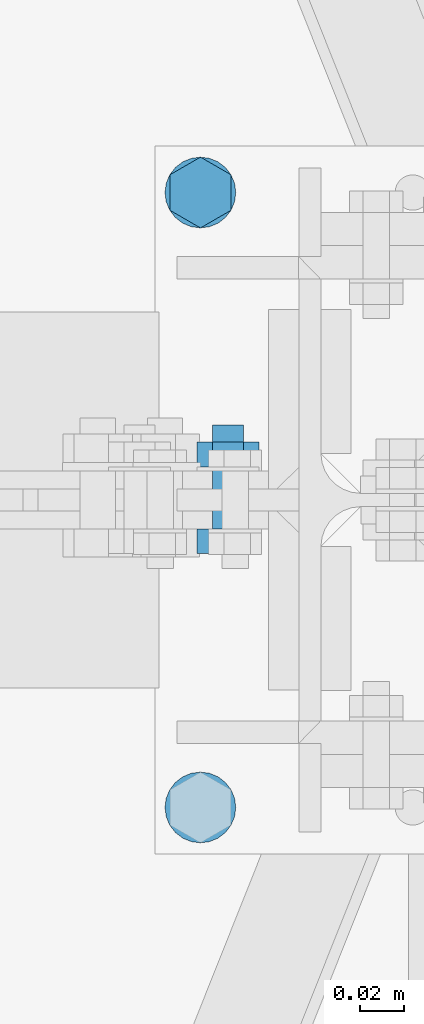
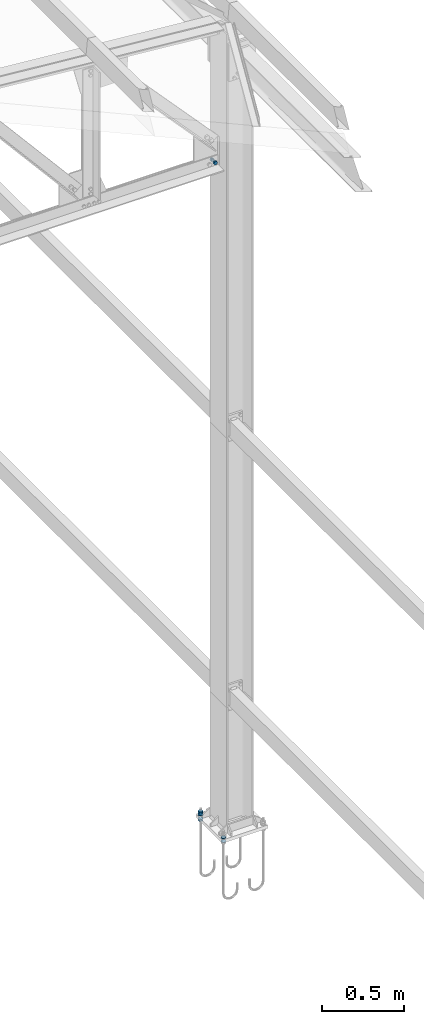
# One storey, part 178 of 251: 10 mechanical fasteners.
"""IFC4 building model written with IfcOpenShell, lengths in metres."""

from ifc_helpers import new_model, si_unit, frame, origin_with_axes, place, context, project, spatial, polyline, outline, extrude, type_object, element, save


model = new_model("IFC4")

# Units and contexts
model_context = context("Model", 3, precision=1e-05, world=origin_with_axes())
ifc_project = project(units=[si_unit("LENGTHUNIT", "METRE"), si_unit("AREAUNIT", "SQUARE_METRE"), si_unit("VOLUMEUNIT", "CUBIC_METRE"), si_unit("MASSUNIT", "GRAM", prefix="KILO"), si_unit("TIMEUNIT", "SECOND"), si_unit("PLANEANGLEUNIT", "RADIAN"), si_unit("SOLIDANGLEUNIT", "STERADIAN"), si_unit("THERMODYNAMICTEMPERATUREUNIT", "DEGREE_CELSIUS")], contexts=[model_context])

# Site, building, storey
placement_1 = place(None, origin_with_axes())
site = spatial("IfcSite", under=ifc_project, at=placement_1, Name="Italia", CompositionType="ELEMENT")
building = spatial("IfcBuilding", under=site, at=placement_1, Name="Deposito", CompositionType="ELEMENT")
storey = spatial("IfcBuildingStorey", under=building, at=placement_1, Name="Storey 0", CompositionType="ELEMENT", Elevation=0.0)

# Mechanical fasteners
mechanical_fastener_type_1 = type_object("IfcMechanicalFastenerType", Name="Collegamenti 0014_-001 0016_-054 0018_-056 0032_-002 0033_-058 0047_-003 0048_-060 0062_-004 0063_-005 0079_-008", PredefinedType="BOLT")
placement_2 = place(placement_1, origin_with_axes())
mechanical_fastener_1_placement = place(placement_2, origin_with_axes())
element("IfcMechanicalFastener", 1, at=mechanical_fastener_1_placement, inside=storey, type_object=mechanical_fastener_type_1, Name="Collegamenti 0014_-001 0016_-054 0018_-056 0032_-002 0033_-058 0047_-003 0048_-060 0062_-004 0063_-005 0079_-008", NominalDiameter=0.032, context=model_context, shape_type="SweptSolid", body=[
    extrude(outline(polyline([(0.0, 0.0), (-0.000544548, -0.00414085), (-0.00214386, -0.00799942), (-0.00468636, -0.0113144), (-0.00799942, -0.0138569), (-0.0118589, -0.0154552), (-0.0159998, -0.0160007), (-0.0201406, -0.0154552), (-0.0240002, -0.0138569), (-0.0273132, -0.0113144), (-0.0298557, -0.00799942), (-0.031455, -0.00414085), (-0.0319996, 0.0), (-0.031455, 0.00414085), (-0.0298557, 0.00799942), (-0.0273132, 0.0113144), (-0.0240002, 0.0138569), (-0.0201406, 0.0154552), (-0.0159998, 0.0160007), (-0.0118589, 0.0154552), (-0.00799942, 0.0138569), (-0.00468636, 0.0113144), (-0.00214386, 0.00799942), (-0.000544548, 0.00414085), (0.0, 0.0)])), frame((19.8605, 14.877, 0.075), z_axis=(0.0, 0.0, 1.0), x_axis=(0.0, 1.0, 0.0)), (0.0, 0.0, 1.0), 0.00399999),
])
mechanical_fastener_type_2 = type_object("IfcMechanicalFastenerType", Name="Collegamenti 0014_-001 0016_-054 0018_-056 0032_-002 0033_-058 0047_-003 0048_-060 0062_-004 0063_-005 0079_-008", PredefinedType="BOLT")
mechanical_fastener_2_placement = place(placement_2, origin_with_axes())
element("IfcMechanicalFastener", 2, at=mechanical_fastener_2_placement, inside=storey, type_object=mechanical_fastener_type_2, Name="Collegamenti 0014_-001 0016_-054 0018_-056 0032_-002 0033_-058 0047_-003 0048_-060 0062_-004 0063_-005 0079_-008", NominalDiameter=0.032, context=model_context, shape_type="SweptSolid", body=[
    extrude(outline(polyline([(0.0, 0.0), (-0.000544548, -0.00414085), (-0.00214386, -0.00799942), (-0.00468636, -0.0113144), (-0.00799942, -0.0138569), (-0.0118589, -0.0154552), (-0.0159998, -0.0160007), (-0.0201406, -0.0154552), (-0.0240002, -0.0138569), (-0.0273132, -0.0113144), (-0.0298557, -0.00799942), (-0.031455, -0.00414085), (-0.0319996, 0.0), (-0.031455, 0.00414085), (-0.0298557, 0.00799942), (-0.0273132, 0.0113144), (-0.0240002, 0.0138569), (-0.0201406, 0.0154552), (-0.0159998, 0.0160007), (-0.0118589, 0.0154552), (-0.00799942, 0.0138569), (-0.00468636, 0.0113144), (-0.00214386, 0.00799942), (-0.000544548, 0.00414085), (0.0, 0.0)])), frame((19.8605, 14.877, 0.046), z_axis=(0.0, 0.0, 1.0), x_axis=(0.0, 1.0, 0.0)), (0.0, 0.0, 1.0), 0.004),
])
mechanical_fastener_type_3 = type_object("IfcMechanicalFastenerType", Name="Collegamenti 0014_-001 0016_-054 0018_-056 0032_-002 0033_-058 0047_-003 0048_-060 0062_-004 0063_-005 0079_-008", PredefinedType="BOLT")
mechanical_fastener_3_placement = place(placement_2, origin_with_axes())
element("IfcMechanicalFastener", 3, at=mechanical_fastener_3_placement, inside=storey, type_object=mechanical_fastener_type_3, Name="Collegamenti 0014_-001 0016_-054 0018_-056 0032_-002 0033_-058 0047_-003 0048_-060 0062_-004 0063_-005 0079_-008", NominalDiameter=0.0160001, context=model_context, shape_type="SweptSolid", body=[
    extrude(outline(polyline([(0.0, 0.0), (-0.0160007, 0.0), (-0.0240002, 0.0138569), (-0.0160007, 0.0277138), (0.0, 0.0277138), (0.00799942, 0.0138569), (0.0, 0.0)])), frame((19.8744, 15.147, 0.079), z_axis=(0.0, 0.0, 1.0), x_axis=(0.0, 1.0, 0.0)), (0.0, 0.0, 1.0), 0.0128),
])
mechanical_fastener_type_4 = type_object("IfcMechanicalFastenerType", Name="Collegamenti 0014_-001 0016_-054 0018_-056 0032_-002 0033_-058 0047_-003 0048_-060 0062_-004 0063_-005 0079_-008", PredefinedType="BOLT")
mechanical_fastener_4_placement = place(placement_2, origin_with_axes())
element("IfcMechanicalFastener", 4, at=mechanical_fastener_4_placement, inside=storey, type_object=mechanical_fastener_type_4, Name="Collegamenti 0014_-001 0016_-054 0018_-056 0032_-002 0033_-058 0047_-003 0048_-060 0062_-004 0063_-005 0079_-008", NominalDiameter=0.0160001, context=model_context, shape_type="SweptSolid", body=[
    extrude(outline(polyline([(0.0, 0.0), (-0.0160007, 0.0), (-0.0240002, 0.0138569), (-0.0160007, 0.0277138), (0.0, 0.0277138), (0.00799942, 0.0138569), (0.0, 0.0)])), frame((19.8744, 15.147, 0.0918), z_axis=(0.0, 0.0, 1.0), x_axis=(0.0, 1.0, 0.0)), (0.0, 0.0, 1.0), 0.0128),
])
mechanical_fastener_type_5 = type_object("IfcMechanicalFastenerType", Name="Collegamenti 0014_-001 0016_-054 0018_-056 0032_-002 0033_-058 0047_-003 0048_-060 0062_-004 0063_-005 0079_-008", PredefinedType="BOLT")
mechanical_fastener_5_placement = place(placement_2, origin_with_axes())
element("IfcMechanicalFastener", 5, at=mechanical_fastener_5_placement, inside=storey, type_object=mechanical_fastener_type_5, Name="Collegamenti 0014_-001 0016_-054 0018_-056 0032_-002 0033_-058 0047_-003 0048_-060 0062_-004 0063_-005 0079_-008", NominalDiameter=0.0160001, context=model_context, shape_type="SweptSolid", body=[
    extrude(outline(polyline([(0.0, 0.0), (-0.0160007, 0.0), (-0.0240002, 0.0138569), (-0.0160007, 0.0277138), (0.0, 0.0277138), (0.00799942, 0.0138569), (0.0, 0.0)])), frame((19.8744, 15.147, 0.0332), z_axis=(0.0, 0.0, 1.0), x_axis=(0.0, 1.0, 0.0)), (0.0, 0.0, 1.0), 0.0128),
])
mechanical_fastener_type_6 = type_object("IfcMechanicalFastenerType", Name="Collegamenti 0014_-001 0016_-054 0018_-056 0032_-002 0033_-058 0047_-003 0048_-060 0062_-004 0063_-005 0079_-008", PredefinedType="BOLT")
mechanical_fastener_6_placement = place(placement_2, origin_with_axes())
element("IfcMechanicalFastener", 6, at=mechanical_fastener_6_placement, inside=storey, type_object=mechanical_fastener_type_6, Name="Collegamenti 0014_-001 0016_-054 0018_-056 0032_-002 0033_-058 0047_-003 0048_-060 0062_-004 0063_-005 0079_-008", NominalDiameter=0.032, context=model_context, shape_type="SweptSolid", body=[
    extrude(outline(polyline([(0.0, 0.0), (-0.000544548, -0.00414085), (-0.00214386, -0.00799942), (-0.00468636, -0.0113144), (-0.00799942, -0.0138569), (-0.0118589, -0.0154552), (-0.0159998, -0.0160007), (-0.0201406, -0.0154552), (-0.0240002, -0.0138569), (-0.0273132, -0.0113144), (-0.0298557, -0.00799942), (-0.031455, -0.00414085), (-0.0319996, 0.0), (-0.031455, 0.00414085), (-0.0298557, 0.00799942), (-0.0273132, 0.0113144), (-0.0240002, 0.0138569), (-0.0201406, 0.0154552), (-0.0159998, 0.0160007), (-0.0118589, 0.0154552), (-0.00799942, 0.0138569), (-0.00468636, 0.0113144), (-0.00214386, 0.00799942), (-0.000544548, 0.00414085), (0.0, 0.0)])), frame((19.8605, 15.155, 0.075), z_axis=(0.0, 0.0, 1.0), x_axis=(0.0, 1.0, 0.0)), (0.0, 0.0, 1.0), 0.00399999),
])
mechanical_fastener_type_7 = type_object("IfcMechanicalFastenerType", Name="Collegamenti 0014_-001 0016_-054 0018_-056 0032_-002 0033_-058 0047_-003 0048_-060 0062_-004 0063_-005 0079_-008", PredefinedType="BOLT")
mechanical_fastener_7_placement = place(placement_2, origin_with_axes())
element("IfcMechanicalFastener", 7, at=mechanical_fastener_7_placement, inside=storey, type_object=mechanical_fastener_type_7, Name="Collegamenti 0014_-001 0016_-054 0018_-056 0032_-002 0033_-058 0047_-003 0048_-060 0062_-004 0063_-005 0079_-008", NominalDiameter=0.032, context=model_context, shape_type="SweptSolid", body=[
    extrude(outline(polyline([(0.0, 0.0), (-0.000544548, -0.00414085), (-0.00214386, -0.00799942), (-0.00468636, -0.0113144), (-0.00799942, -0.0138569), (-0.0118589, -0.0154552), (-0.0159998, -0.0160007), (-0.0201406, -0.0154552), (-0.0240002, -0.0138569), (-0.0273132, -0.0113144), (-0.0298557, -0.00799942), (-0.031455, -0.00414085), (-0.0319996, 0.0), (-0.031455, 0.00414085), (-0.0298557, 0.00799942), (-0.0273132, 0.0113144), (-0.0240002, 0.0138569), (-0.0201406, 0.0154552), (-0.0159998, 0.0160007), (-0.0118589, 0.0154552), (-0.00799942, 0.0138569), (-0.00468636, 0.0113144), (-0.00214386, 0.00799942), (-0.000544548, 0.00414085), (0.0, 0.0)])), frame((19.8605, 15.155, 0.046), z_axis=(0.0, 0.0, 1.0), x_axis=(0.0, 1.0, 0.0)), (0.0, 0.0, 1.0), 0.004),
])
mechanical_fastener_type_8 = type_object("IfcMechanicalFastenerType", Name="Reticolare 5", PredefinedType="BOLT")
mechanical_fastener_8_placement = place(placement_2, origin_with_axes())
element("IfcMechanicalFastener", 8, at=mechanical_fastener_8_placement, inside=storey, type_object=mechanical_fastener_type_8, Name="Reticolare 5", NominalDiameter=0.0139997, context=model_context, shape_type="SweptSolid", body=[
    extrude(outline(polyline([(0.0, 0.0), (-0.0139999, 0.0), (-0.0209999, 0.0121241), (-0.0139999, 0.0242486), (0.0, 0.0242486), (0.00699997, 0.0121241), (0.0, 0.0)])), frame((19.88, 14.987, 4.99688), z_axis=(0.0, -1.0, 0.0), x_axis=(1.0, 0.0, 0.0)), (0.0, 0.0, 1.0), 0.0112009),
])
mechanical_fastener_type_9 = type_object("IfcMechanicalFastenerType", Name="Reticolare 5", PredefinedType="BOLT")
mechanical_fastener_9_placement = place(placement_2, origin_with_axes())
element("IfcMechanicalFastener", 9, at=mechanical_fastener_9_placement, inside=storey, type_object=mechanical_fastener_type_9, Name="Reticolare 5", NominalDiameter=0.014, context=model_context, shape_type="SweptSolid", body=[
    extrude(outline(polyline([(0.0, 0.0), (-0.000238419, -0.0018115), (-0.000938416, -0.00349998), (-0.0020504, -0.00494957), (-0.00349998, -0.00606203), (-0.00518799, -0.00676155), (-0.00699997, -0.00699997), (-0.00881195, -0.00676155), (-0.0105, -0.00606203), (-0.0119495, -0.00494957), (-0.0130615, -0.00349998), (-0.0137615, -0.0018115), (-0.0139999, 0.0), (-0.0137615, 0.0018115), (-0.0130615, 0.00349998), (-0.0119495, 0.00494957), (-0.0105, 0.00606203), (-0.00881195, 0.00676155), (-0.00699997, 0.00699997), (-0.00518799, 0.00676155), (-0.00349998, 0.00606203), (-0.0020504, 0.00494957), (-0.000938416, 0.00349998), (-0.000238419, 0.0018115), (0.0, 0.0)])), frame((19.88, 15.034, 5.009), z_axis=(0.0, -1.0, 0.0), x_axis=(1.0, 0.0, 0.0)), (0.0, 0.0, 1.0), 0.0469999),
])
mechanical_fastener_type_10 = type_object("IfcMechanicalFastenerType", Name="Reticolare 5", PredefinedType="BOLT")
mechanical_fastener_10_placement = place(placement_2, origin_with_axes())
element("IfcMechanicalFastener", 10, at=mechanical_fastener_10_placement, inside=storey, type_object=mechanical_fastener_type_10, Name="Reticolare 5", NominalDiameter=0.0139997, context=model_context, shape_type="SweptSolid", body=[
    extrude(outline(polyline([(0.0, 0.0), (-0.0139999, 0.0), (-0.0209999, 0.0121241), (-0.0139999, 0.0242486), (0.0, 0.0242486), (0.00699997, 0.0121241), (0.0, 0.0)])), frame((19.88, 15.0262, 4.99688), z_axis=(0.0, -1.0, 0.0), x_axis=(1.0, 0.0, 0.0)), (0.0, 0.0, 1.0), 0.0112),
])

save(model, "model.ifc")
